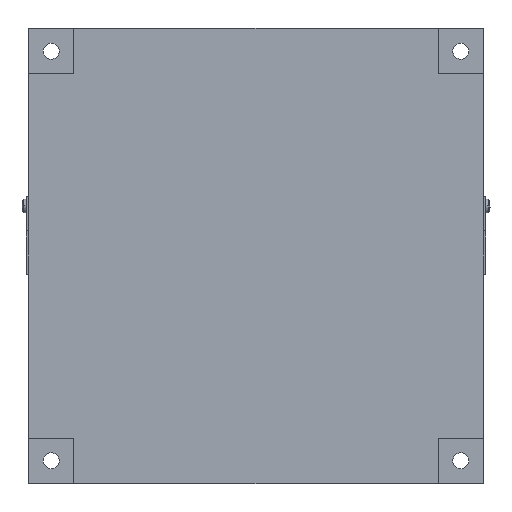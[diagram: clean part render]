
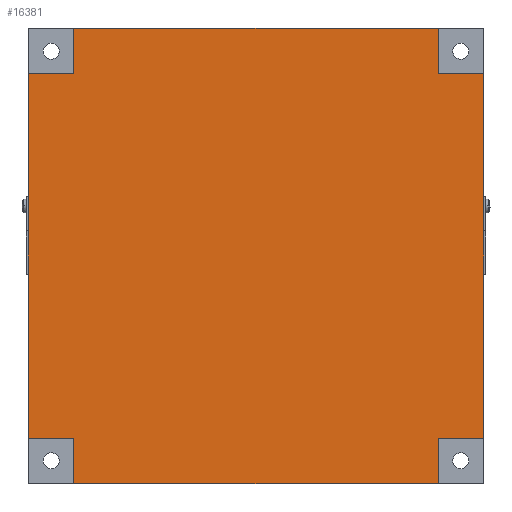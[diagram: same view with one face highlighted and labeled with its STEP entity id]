
A CAD part, front view. The second image highlights one B-rep face of the part: STEP entity #16381.
In plain terms, the highlighted planar face has unit normal (0, -1, 0).
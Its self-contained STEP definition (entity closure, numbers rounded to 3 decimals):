
#2391 = CARTESIAN_POINT ( 'NONE',  ( -80., 0.5, 100. ) ) ;
#2392 = DIRECTION ( 'NONE',  ( 0., 0., 1. ) ) ;
#2393 = VECTOR ( 'NONE', #2392, 1000. ) ;
#2394 = CARTESIAN_POINT ( 'NONE',  ( -80., 0.5, 80. ) ) ;
#2395 = LINE ( 'NONE', #2394, #2393 ) ;
#2396 = CARTESIAN_POINT ( 'NONE',  ( -80., 0.5, 80. ) ) ;
#2540 = CARTESIAN_POINT ( 'NONE',  ( 80., 0.5, 80. ) ) ;
#2541 = DIRECTION ( 'NONE',  ( 0., 0., -1. ) ) ;
#2542 = VECTOR ( 'NONE', #2541, 1000. ) ;
#2543 = CARTESIAN_POINT ( 'NONE',  ( 80., 0.5, 80. ) ) ;
#2544 = LINE ( 'NONE', #2543, #2542 ) ;
#2592 = CARTESIAN_POINT ( 'NONE',  ( 80., 0.5, 100. ) ) ;
#2914 = CARTESIAN_POINT ( 'NONE',  ( -80., 0.5, -80. ) ) ;
#2915 = DIRECTION ( 'NONE',  ( 0., 0., 1. ) ) ;
#2916 = VECTOR ( 'NONE', #2915, 1000. ) ;
#2917 = CARTESIAN_POINT ( 'NONE',  ( -80., 0.5, -100. ) ) ;
#2918 = LINE ( 'NONE', #2917, #2916 ) ;
#3014 = DIRECTION ( 'NONE',  ( 1., 0., 0. ) ) ;
#3015 = VECTOR ( 'NONE', #3014, 1000. ) ;
#3016 = CARTESIAN_POINT ( 'NONE',  ( -80., 0.5, 100. ) ) ;
#3017 = LINE ( 'NONE', #3016, #3015 ) ;
#3185 = CARTESIAN_POINT ( 'NONE',  ( 80., 0.5, -80. ) ) ;
#3186 = DIRECTION ( 'NONE',  ( -1., 0., 0. ) ) ;
#3187 = VECTOR ( 'NONE', #3186, 1000. ) ;
#3188 = CARTESIAN_POINT ( 'NONE',  ( 80., 0.5, -80. ) ) ;
#3189 = LINE ( 'NONE', #3188, #3187 ) ;
#3190 = CARTESIAN_POINT ( 'NONE',  ( 100., 0.5, -80. ) ) ;
#3294 = CARTESIAN_POINT ( 'NONE',  ( 80., 0.5, -100. ) ) ;
#3295 = DIRECTION ( 'NONE',  ( 0., 0., -1. ) ) ;
#3296 = VECTOR ( 'NONE', #3295, 1000. ) ;
#3297 = CARTESIAN_POINT ( 'NONE',  ( 80., 0.5, -100. ) ) ;
#3298 = LINE ( 'NONE', #3297, #3296 ) ;
#3346 = DIRECTION ( 'NONE',  ( 0., 0., 1. ) ) ;
#3347 = DIRECTION ( 'NONE',  ( 0., 1., 0. ) ) ;
#3348 = CARTESIAN_POINT ( 'NONE',  ( -80., 0.5, -80. ) ) ;
#3349 = AXIS2_PLACEMENT_3D ( 'NONE', #3348, #3347, #3346 ) ;
#3350 = PLANE ( 'NONE',  #3349 ) ;
#3351 = FACE_OUTER_BOUND ( 'NONE', #16382, .T. ) ;
#3352 = DIRECTION ( 'NONE',  ( 1., 0., 0. ) ) ;
#3353 = VECTOR ( 'NONE', #3352, 1000. ) ;
#3354 = CARTESIAN_POINT ( 'NONE',  ( -100., 0.5, 80. ) ) ;
#3355 = LINE ( 'NONE', #3354, #3353 ) ;
#3356 = CARTESIAN_POINT ( 'NONE',  ( -100., 0.5, 80. ) ) ;
#3426 = CARTESIAN_POINT ( 'NONE',  ( 100., 0.5, 80. ) ) ;
#3427 = DIRECTION ( 'NONE',  ( 1., 0., 0. ) ) ;
#3428 = VECTOR ( 'NONE', #3427, 1000. ) ;
#3429 = CARTESIAN_POINT ( 'NONE',  ( 80., 0.5, 80. ) ) ;
#3430 = LINE ( 'NONE', #3429, #3428 ) ;
#4221 = CARTESIAN_POINT ( 'NONE',  ( -80., 0.5, -100. ) ) ;
#4222 = DIRECTION ( 'NONE',  ( -1., 0., 0. ) ) ;
#4223 = VECTOR ( 'NONE', #4222, 1000. ) ;
#4224 = CARTESIAN_POINT ( 'NONE',  ( -80., 0.5, -100. ) ) ;
#4225 = LINE ( 'NONE', #4224, #4223 ) ;
#4263 = DIRECTION ( 'NONE',  ( -1., 0., 0. ) ) ;
#4264 = VECTOR ( 'NONE', #4263, 1000. ) ;
#4265 = CARTESIAN_POINT ( 'NONE',  ( -100., 0.5, -80. ) ) ;
#4266 = LINE ( 'NONE', #4265, #4264 ) ;
#4267 = CARTESIAN_POINT ( 'NONE',  ( -100., 0.5, -80. ) ) ;
#4268 = DIRECTION ( 'NONE',  ( 0., 0., 1. ) ) ;
#4269 = VECTOR ( 'NONE', #4268, 1000. ) ;
#4270 = CARTESIAN_POINT ( 'NONE',  ( -100., 0.5, -80. ) ) ;
#4271 = LINE ( 'NONE', #4270, #4269 ) ;
#4384 = DIRECTION ( 'NONE',  ( 0., 0., -1. ) ) ;
#4385 = VECTOR ( 'NONE', #4384, 1000. ) ;
#4386 = CARTESIAN_POINT ( 'NONE',  ( 100., 0.5, -80. ) ) ;
#4387 = LINE ( 'NONE', #4386, #4385 ) ;
#15962 = VERTEX_POINT ( 'NONE', #2396 ) ;
#15964 = EDGE_CURVE ( 'NONE', #15962, #15965, #2395, .T. ) ;
#15965 = VERTEX_POINT ( 'NONE', #2391 ) ;
#15976 = VERTEX_POINT ( 'NONE', #2592 ) ;
#15978 = EDGE_CURVE ( 'NONE', #15976, #15979, #2544, .T. ) ;
#15979 = VERTEX_POINT ( 'NONE', #2540 ) ;
#16326 = EDGE_CURVE ( 'NONE', #16896, #16327, #2918, .T. ) ;
#16327 = VERTEX_POINT ( 'NONE', #2914 ) ;
#16346 = EDGE_CURVE ( 'NONE', #15965, #15976, #3017, .T. ) ;
#16377 = VERTEX_POINT ( 'NONE', #3356 ) ;
#16379 = EDGE_CURVE ( 'NONE', #16377, #15962, #3355, .T. ) ;
#16381 = ADVANCED_FACE ( 'NONE', ( #3351 ), #3350, .F. ) ;
#16382 = EDGE_LOOP ( 'NONE', ( #16385, #16384, #16753, #16754, #16852, #16854, #16855, #16864, #16865, #16866, #16867, #16870 ) ) ;
#16384 = ORIENTED_EDGE ( 'NONE', *, *, #16895, .F. ) ;
#16385 = ORIENTED_EDGE ( 'NONE', *, *, #16326, .F. ) ;
#16451 = EDGE_CURVE ( 'NONE', #16498, #16452, #3298, .T. ) ;
#16452 = VERTEX_POINT ( 'NONE', #3294 ) ;
#16495 = VERTEX_POINT ( 'NONE', #3190 ) ;
#16497 = EDGE_CURVE ( 'NONE', #16495, #16498, #3189, .T. ) ;
#16498 = VERTEX_POINT ( 'NONE', #3185 ) ;
#16506 = EDGE_CURVE ( 'NONE', #15979, #16507, #3430, .T. ) ;
#16507 = VERTEX_POINT ( 'NONE', #3426 ) ;
#16753 = ORIENTED_EDGE ( 'NONE', *, *, #16451, .F. ) ;
#16754 = ORIENTED_EDGE ( 'NONE', *, *, #16497, .F. ) ;
#16852 = ORIENTED_EDGE ( 'NONE', *, *, #16853, .F. ) ;
#16853 = EDGE_CURVE ( 'NONE', #16507, #16495, #4387, .T. ) ;
#16854 = ORIENTED_EDGE ( 'NONE', *, *, #16506, .F. ) ;
#16855 = ORIENTED_EDGE ( 'NONE', *, *, #15978, .F. ) ;
#16864 = ORIENTED_EDGE ( 'NONE', *, *, #16346, .F. ) ;
#16865 = ORIENTED_EDGE ( 'NONE', *, *, #15964, .F. ) ;
#16866 = ORIENTED_EDGE ( 'NONE', *, *, #16379, .F. ) ;
#16867 = ORIENTED_EDGE ( 'NONE', *, *, #16868, .F. ) ;
#16868 = EDGE_CURVE ( 'NONE', #16869, #16377, #4271, .T. ) ;
#16869 = VERTEX_POINT ( 'NONE', #4267 ) ;
#16870 = ORIENTED_EDGE ( 'NONE', *, *, #16871, .F. ) ;
#16871 = EDGE_CURVE ( 'NONE', #16327, #16869, #4266, .T. ) ;
#16895 = EDGE_CURVE ( 'NONE', #16452, #16896, #4225, .T. ) ;
#16896 = VERTEX_POINT ( 'NONE', #4221 ) ;
